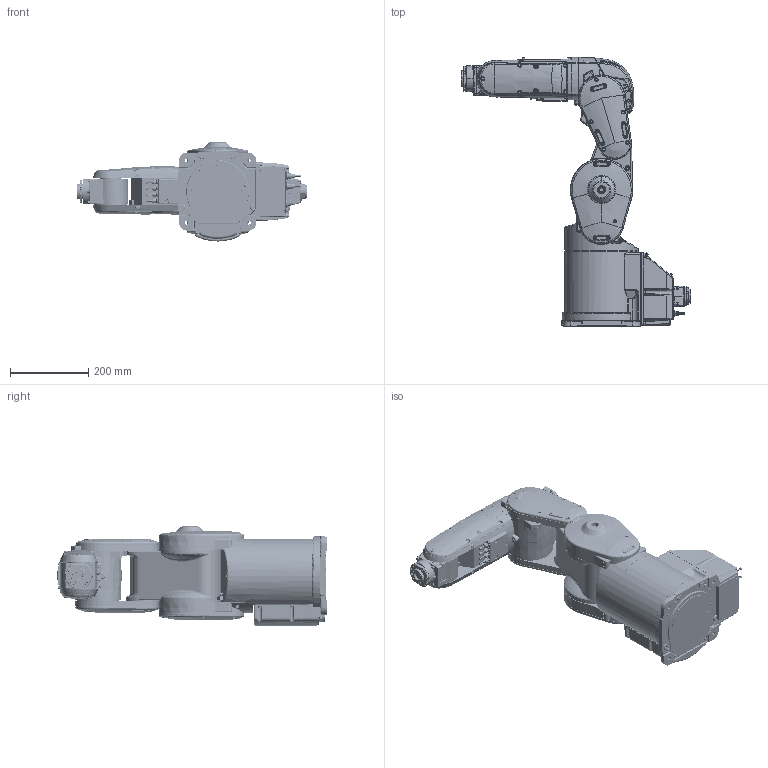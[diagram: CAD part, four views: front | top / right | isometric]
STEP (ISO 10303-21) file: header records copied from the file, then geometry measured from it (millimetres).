
FILE_DESCRIPTION((''),'2;1');
FILE_NAME('RV-4FR_ASM','2016-12-14T',('1362'),(''),'PRO/ENGINEER BY PARAMETRIC TECHNOLOGY CORPORATION, 2014310','PRO/ENGINEER BY PARAMETRIC TECHNOLOGY CORPORATION, 2014310','');
FILE_SCHEMA(('CONFIG_CONTROL_DESIGN'));
Products named in the file (9): RV-4F_SKELTON; RV-4FR_BASE; RV-4F_SHOULDER_01; RV-4F_NO1ARM_02; RV-4F_ELBOW_03; RV-4F_NO2ARM_04; RV-4F_WRIST_05; RV-4F_HAND_FLANGE_06; RV-4FR_ASM
Assembly tree (8 placements, depth 2):
  RV-4FR_ASM
    RV-4F_SKELTON
    RV-4FR_BASE
    RV-4F_SHOULDER_01
    RV-4F_NO1ARM_02
    RV-4F_ELBOW_03
    RV-4F_NO2ARM_04
    RV-4F_WRIST_05
    RV-4F_HAND_FLANGE_06
Bounding box: 588.5 x 689.54 x 254 mm (x, y, z)
Volume: 21810614.4 mm3; surface area: 1108618 mm2
Topology: 7 solids, 16 shells, 4216 faces, 10690 edges, 6629 vertices
Faces by surface type: cylinder 1381, plane 1089, bspline 843, cone 432, torus 388, sphere 62, extrusion 16, revolution 5
Entity records: 284588 total; most frequent: CARTESIAN_POINT 190657, ORIENTED_EDGE 21118, DIRECTION 17601, EDGE_CURVE 10559, AXIS2_PLACEMENT_3D 6995, VERTEX_POINT 6629, EDGE_LOOP 4490, FACE_OUTER_BOUND 4216
